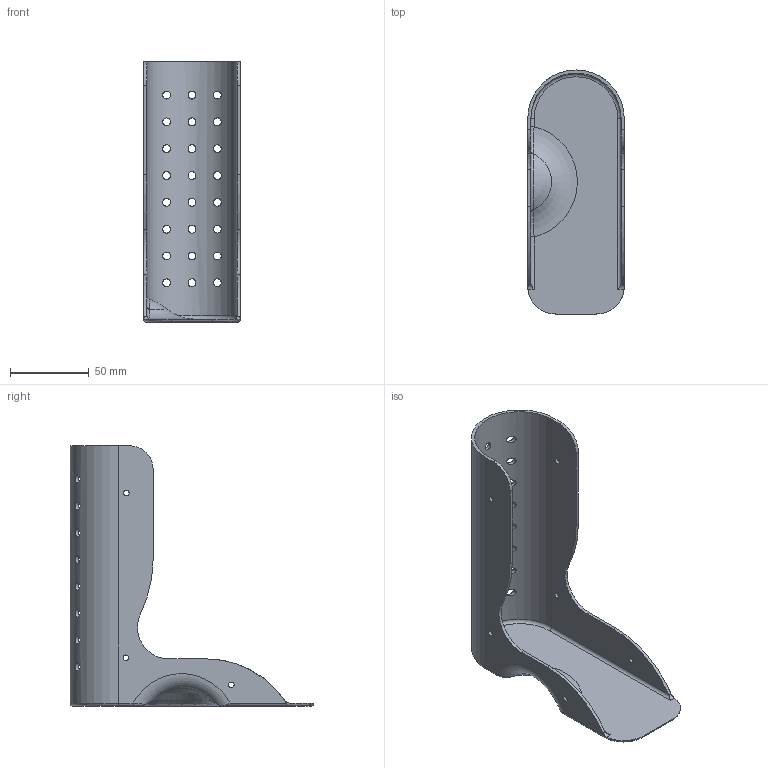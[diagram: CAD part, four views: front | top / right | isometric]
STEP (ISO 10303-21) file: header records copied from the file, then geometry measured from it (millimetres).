
FILE_DESCRIPTION(/* description */ (''),/* implementation_level */ '2;1');
FILE_NAME(/* name */ 'AFO size L left foot.step',/* time_stamp */ '2025-11-06T11:47:06+01:00',/* author */ (''),/* organization */ (''),/* preprocessor_version */ 'ST-DEVELOPER v20.1',/* originating_system */ 'Autodesk Translation Framework v14.17.0.0',/* authorisation */ '');
FILE_SCHEMA (('AUTOMOTIVE_DESIGN { 1 0 10303 214 3 1 1 }'));
Length unit declared in the file: millimetre
Products named in the file (1): 2025-10-02-12-56-12-317
Bounding box: 61.2 x 154.43 x 165.1 mm (x, y, z)
Volume: 67518.3 mm3; surface area: 68897.6 mm2
Topology: 1 solids, 1 shells, 73 faces, 266 edges, 195 vertices
Faces by surface type: cylinder 49, plane 11, torus 7, bspline 4, sphere 2
Full cylindrical faces by diameter (mm): 3.5 x6, 5 x24
Entity records: 4904 total; most frequent: CARTESIAN_POINT 2660, ORIENTED_EDGE 532, DIRECTION 332, EDGE_CURVE 266, VERTEX_POINT 195, EDGE_LOOP 133, B_SPLINE_CURVE_WITH_KNOTS 132, AXIS2_PLACEMENT_3D 128
